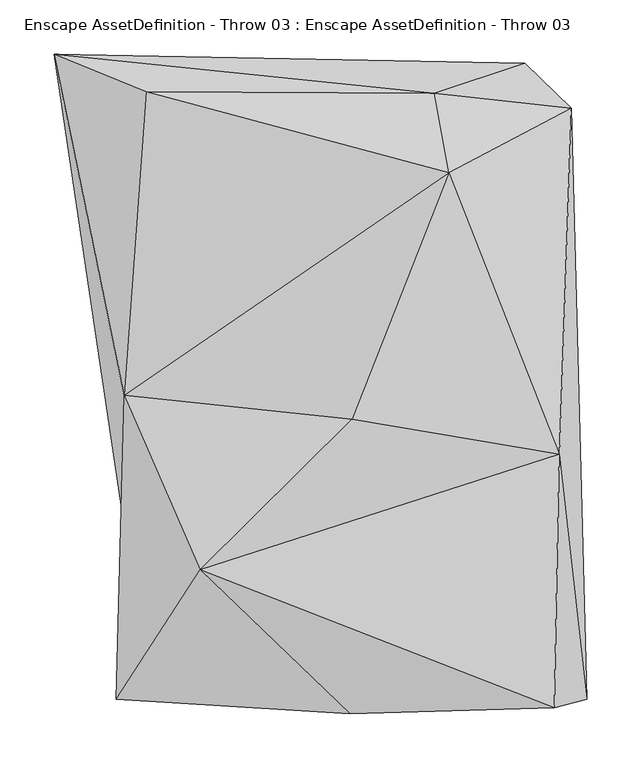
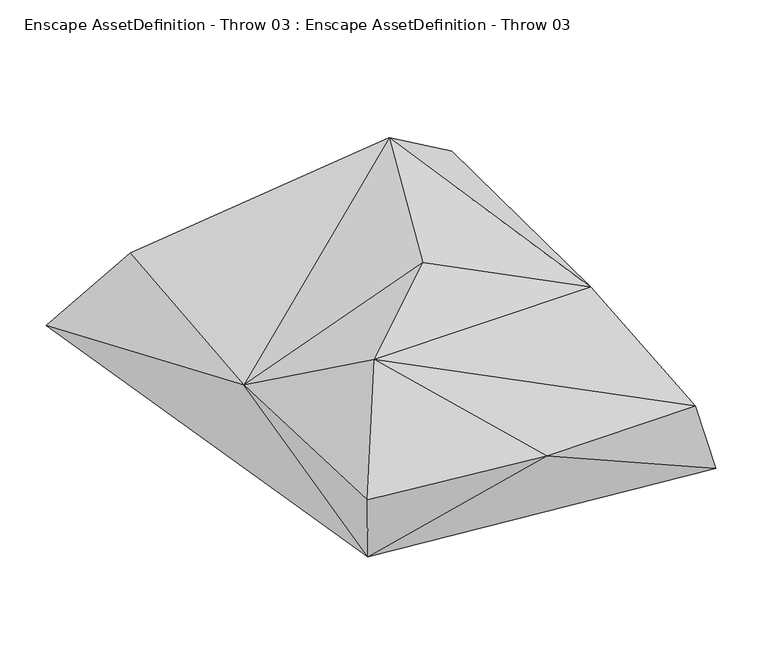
"""IFC4 building model written with IfcOpenShell, lengths in millimetres: geographic element geometry, Enscape AssetDefinition - Throw 03 : Enscape AssetDefinition - Throw 03."""

from ifc_helpers import new_model, si_unit, origin, place, context, project, spatial, faceted_brep, source, transform, mapped, element, save


def enscape_assetdefinition_throw_03_enscape_assetdefinition_2d4c1df4(model_context):
    return source(origin(), model_context, "Body", "Brep", [
        faceted_brep([(-188.4031147, -286.8830264, 125.1690686), (27.7440231, -300.3508449, 116.3090616), (-111.0426411, -167.5305218, 211.4714086), (-163.5478735, -244.6976751, 15.8946384), (216.3687497, -294.682622, 112.6552001), (246.0267842, -287.0874107, 14.808692), (-180.850774, -6.445128, 104.4559553), (220.8664417, -60.97956, 126.179412), (29.5763128, -28.6673214, 205.818221), (188.8727099, 300.0595868, 11.4713907), (231.8746001, 258.3654523, 108.2203239), (-245.6130385, 308.244139, 14.5502929), (-160.6048197, 273.4597027, 101.4970317), (119.1213131, 198.7659633, 201.5895694), (105.6823134, 272.3806202, 100.7357538)], [[[0, 1, 2]], [[0, 3, 1]], [[2, 1, 4]], [[1, 5, 4]], [[1, 3, 5]], [[6, 3, 0]], [[0, 2, 6]], [[2, 4, 7]], [[2, 7, 8]], [[6, 2, 8]], [[4, 5, 7]], [[5, 3, 9]], [[7, 5, 10]], [[10, 5, 9]], [[9, 3, 11]], [[6, 11, 3]], [[12, 11, 6]], [[13, 12, 6]], [[13, 6, 8]], [[8, 7, 13]], [[13, 7, 10]], [[10, 9, 14]], [[13, 10, 14]], [[9, 11, 14]], [[12, 14, 11]], [[13, 14, 12]]]),
    ])


if __name__ == "__main__":
    model = new_model("IFC4")
    model_context = context("Model", 3, world=origin())
    ifc_project = project(units=[si_unit("LENGTHUNIT", "METRE", prefix="MILLI")], contexts=[model_context])
    site = spatial("IfcSite", under=ifc_project)
    building = spatial("IfcBuilding", under=site)
    placement = place(None, origin())
    enscape_assetdefinition_throw_03_enscape_assetdefinition_shape = enscape_assetdefinition_throw_03_enscape_assetdefinition_2d4c1df4(model_context)
    element("IfcGeographicElement", 1, ObjectType="Enscape AssetDefinition - Throw 03 : Enscape AssetDefinition - Throw 03", at=placement, inside=building, context=model_context, shape_type="MappedRepresentation", body=[
        mapped(enscape_assetdefinition_throw_03_enscape_assetdefinition_shape, transform((0.0, 0.0, 0.0), x_axis=(1.0, 0.0, 0.0), y_axis=(0.0, 1.0, 0.0), z_axis=(0.0, 0.0, 1.0))),
    ])
    save(model, "model.ifc")
